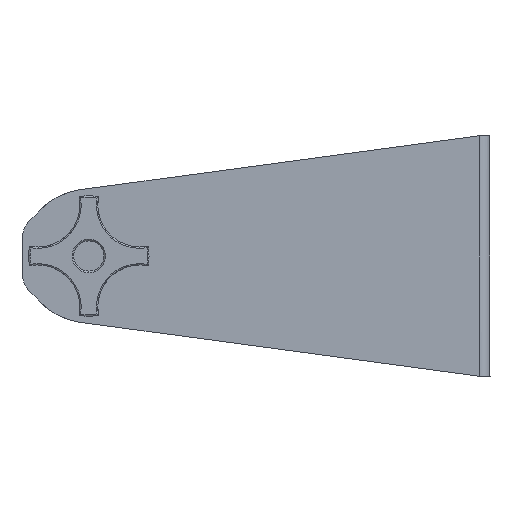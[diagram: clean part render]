
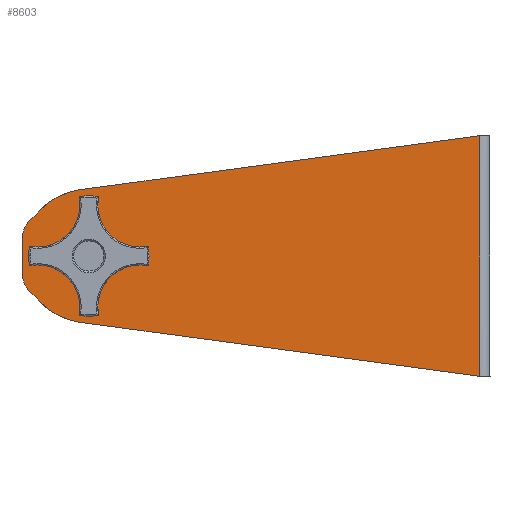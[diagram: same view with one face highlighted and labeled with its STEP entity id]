
A CAD part, left-side view. The second image highlights one B-rep face of the part: STEP entity #8603.
In plain terms, the highlighted planar face has unit normal (-1, 0, 0).
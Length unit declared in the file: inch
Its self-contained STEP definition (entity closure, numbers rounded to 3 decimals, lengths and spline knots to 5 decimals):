
#274 = LINE ( 'NONE', #3619, #4530 ) ;
#313 = EDGE_LOOP ( 'NONE', ( #4153, #3950, #7275, #7785, #909, #4486, #2589, #4508, #9084, #8207 ) ) ;
#324 = LINE ( 'NONE', #7533, #8843 ) ;
#330 = CARTESIAN_POINT ( 'NONE',  ( -11.063, 8.60408, 0.66302 ) ) ;
#390 = LINE ( 'NONE', #3887, #9181 ) ;
#411 = VECTOR ( 'NONE', #4027, 39.37008 ) ;
#676 = CARTESIAN_POINT ( 'NONE',  ( -11.063, 0.196, -2.24892 ) ) ;
#894 = DIRECTION ( 'NONE',  ( 1., 0., 0. ) ) ;
#909 = ORIENTED_EDGE ( 'NONE', *, *, #6058, .F. ) ;
#931 = PLANE ( 'NONE',  #4301 ) ;
#935 = CARTESIAN_POINT ( 'NONE',  ( -11.063, 7.6955, 0. ) ) ;
#977 = DIRECTION ( 'NONE',  ( 1., 0., 0. ) ) ;
#983 = VECTOR ( 'NONE', #9424, 39.37008 ) ;
#1042 = DIRECTION ( 'NONE',  ( 0., 1., 0. ) ) ;
#1184 = CIRCLE ( 'NONE', #2293, 1.25 ) ;
#1297 = VERTEX_POINT ( 'NONE', #676 ) ;
#1373 = EDGE_CURVE ( 'NONE', #3528, #8209, #5449, .T. ) ;
#1707 = CARTESIAN_POINT ( 'NONE',  ( -11.063, 7.5, 0. ) ) ;
#1822 = CARTESIAN_POINT ( 'NONE',  ( -11.063, 8.38521, 0.88255 ) ) ;
#2117 = CARTESIAN_POINT ( 'NONE',  ( -11.063, 8.60408, -0.66302 ) ) ;
#2189 = VERTEX_POINT ( 'NONE', #8534 ) ;
#2231 = VERTEX_POINT ( 'NONE', #935 ) ;
#2293 = AXIS2_PLACEMENT_3D ( 'NONE', #1707, #7665, #2555 ) ;
#2328 = CARTESIAN_POINT ( 'NONE',  ( -11.063, 8.25, 0.31 ) ) ;
#2430 = DIRECTION ( 'NONE',  ( 0., 0., 1. ) ) ;
#2555 = DIRECTION ( 'NONE',  ( 0., -1., 0. ) ) ;
#2589 = ORIENTED_EDGE ( 'NONE', *, *, #3502, .F. ) ;
#2800 = CIRCLE ( 'NONE', #8079, 0.1955 ) ;
#3170 = DIRECTION ( 'NONE',  ( 0., -1., 0. ) ) ;
#3243 = FACE_BOUND ( 'NONE', #8692, .T. ) ;
#3338 = DIRECTION ( 'NONE',  ( 1., 0., 0. ) ) ;
#3415 = VERTEX_POINT ( 'NONE', #7792 ) ;
#3500 = DIRECTION ( 'NONE',  ( 1., 0., 0. ) ) ;
#3502 = EDGE_CURVE ( 'NONE', #8209, #2189, #8109, .T. ) ;
#3528 = VERTEX_POINT ( 'NONE', #2117 ) ;
#3562 = CIRCLE ( 'NONE', #9714, 0.1955 ) ;
#3619 = CARTESIAN_POINT ( 'NONE',  ( -11.063, 0.188, 2.25 ) ) ;
#3678 = CARTESIAN_POINT ( 'NONE',  ( -11.063, 7.3045, 0. ) ) ;
#3788 = CARTESIAN_POINT ( 'NONE',  ( -11.063, 8.75, 0.31 ) ) ;
#3795 = CARTESIAN_POINT ( 'NONE',  ( -11.063, 8.38521, -0.88255 ) ) ;
#3838 = VECTOR ( 'NONE', #5500, 39.37008 ) ;
#3887 = CARTESIAN_POINT ( 'NONE',  ( -11.063, 0.188, -2.25 ) ) ;
#3950 = ORIENTED_EDGE ( 'NONE', *, *, #8383, .T. ) ;
#4027 = DIRECTION ( 'NONE',  ( 0., -0.706, 0.708 ) ) ;
#4153 = ORIENTED_EDGE ( 'NONE', *, *, #10127, .F. ) ;
#4161 = EDGE_CURVE ( 'NONE', #3415, #4620, #1184, .T. ) ;
#4301 = AXIS2_PLACEMENT_3D ( 'NONE', #5280, #6134, #1042 ) ;
#4469 = DIRECTION ( 'NONE',  ( 0., -0.991, 0.134 ) ) ;
#4486 = ORIENTED_EDGE ( 'NONE', *, *, #5639, .F. ) ;
#4508 = ORIENTED_EDGE ( 'NONE', *, *, #1373, .F. ) ;
#4530 = VECTOR ( 'NONE', #4469, 39.37008 ) ;
#4620 = VERTEX_POINT ( 'NONE', #3795 ) ;
#4742 = DIRECTION ( 'NONE',  ( 0., 0.991, 0.134 ) ) ;
#4892 = VERTEX_POINT ( 'NONE', #8524 ) ;
#4935 = LINE ( 'NONE', #9123, #411 ) ;
#4952 = VERTEX_POINT ( 'NONE', #1822 ) ;
#5028 = VERTEX_POINT ( 'NONE', #10489 ) ;
#5040 = VERTEX_POINT ( 'NONE', #3678 ) ;
#5279 = CIRCLE ( 'NONE', #9998, 0.5 ) ;
#5280 = CARTESIAN_POINT ( 'NONE',  ( -11.063, 7.5, 0. ) ) ;
#5350 = EDGE_CURVE ( 'NONE', #4952, #5028, #9423, .T. ) ;
#5449 = CIRCLE ( 'NONE', #5509, 0.5 ) ;
#5500 = DIRECTION ( 'NONE',  ( 0., 0., 1. ) ) ;
#5509 = AXIS2_PLACEMENT_3D ( 'NONE', #5976, #894, #6839 ) ;
#5639 = EDGE_CURVE ( 'NONE', #2189, #8742, #5279, .T. ) ;
#5842 = EDGE_CURVE ( 'NONE', #2231, #5040, #2800, .T. ) ;
#5891 = EDGE_CURVE ( 'NONE', #5028, #4892, #274, .T. ) ;
#5976 = CARTESIAN_POINT ( 'NONE',  ( -11.063, 8.25, -0.31 ) ) ;
#5983 = CARTESIAN_POINT ( 'NONE',  ( -11.063, 8.60408, -0.66302 ) ) ;
#6058 = EDGE_CURVE ( 'NONE', #8742, #4952, #4935, .T. ) ;
#6065 = CARTESIAN_POINT ( 'NONE',  ( -11.063, 7.5, 0. ) ) ;
#6134 = DIRECTION ( 'NONE',  ( -1., 0., 0. ) ) ;
#6839 = DIRECTION ( 'NONE',  ( 0., -1., 0. ) ) ;
#6934 = DIRECTION ( 'NONE',  ( 0., -1., 0. ) ) ;
#7275 = ORIENTED_EDGE ( 'NONE', *, *, #5891, .F. ) ;
#7326 = ORIENTED_EDGE ( 'NONE', *, *, #5842, .T. ) ;
#7414 = EDGE_CURVE ( 'NONE', #5040, #2231, #3562, .T. ) ;
#7533 = CARTESIAN_POINT ( 'NONE',  ( -11.063, 0.196, 0. ) ) ;
#7665 = DIRECTION ( 'NONE',  ( 1., 0., 0. ) ) ;
#7782 = FACE_OUTER_BOUND ( 'NONE', #313, .T. ) ;
#7785 = ORIENTED_EDGE ( 'NONE', *, *, #5350, .F. ) ;
#7792 = CARTESIAN_POINT ( 'NONE',  ( -11.063, 7.66748, -1.23873 ) ) ;
#8079 = AXIS2_PLACEMENT_3D ( 'NONE', #8608, #3500, #9471 ) ;
#8109 = LINE ( 'NONE', #3788, #3838 ) ;
#8207 = ORIENTED_EDGE ( 'NONE', *, *, #4161, .F. ) ;
#8209 = VERTEX_POINT ( 'NONE', #9019 ) ;
#8285 = DIRECTION ( 'NONE',  ( 1., 0., 0. ) ) ;
#8317 = LINE ( 'NONE', #5983, #983 ) ;
#8383 = EDGE_CURVE ( 'NONE', #1297, #4892, #324, .T. ) ;
#8441 = CARTESIAN_POINT ( 'NONE',  ( -11.063, 7.5, 0. ) ) ;
#8508 = AXIS2_PLACEMENT_3D ( 'NONE', #8441, #3338, #9299 ) ;
#8524 = CARTESIAN_POINT ( 'NONE',  ( -11.063, 0.196, 2.24892 ) ) ;
#8534 = CARTESIAN_POINT ( 'NONE',  ( -11.063, 8.75, 0.31 ) ) ;
#8569 = EDGE_CURVE ( 'NONE', #4620, #3528, #8317, .T. ) ;
#8603 = ADVANCED_FACE ( 'NONE', ( #3243, #7782 ), #931, .T. ) ;
#8608 = CARTESIAN_POINT ( 'NONE',  ( -11.063, 7.5, 0. ) ) ;
#8692 = EDGE_LOOP ( 'NONE', ( #7326, #10488 ) ) ;
#8742 = VERTEX_POINT ( 'NONE', #330 ) ;
#8843 = VECTOR ( 'NONE', #2430, 39.37008 ) ;
#9019 = CARTESIAN_POINT ( 'NONE',  ( -11.063, 8.75, -0.31 ) ) ;
#9084 = ORIENTED_EDGE ( 'NONE', *, *, #8569, .F. ) ;
#9123 = CARTESIAN_POINT ( 'NONE',  ( -11.063, 8.60408, 0.66302 ) ) ;
#9181 = VECTOR ( 'NONE', #4742, 39.37008 ) ;
#9299 = DIRECTION ( 'NONE',  ( 0., -1., 0. ) ) ;
#9423 = CIRCLE ( 'NONE', #8508, 1.25 ) ;
#9424 = DIRECTION ( 'NONE',  ( 0., 0.706, 0.708 ) ) ;
#9471 = DIRECTION ( 'NONE',  ( 0., -1., 0. ) ) ;
#9714 = AXIS2_PLACEMENT_3D ( 'NONE', #6065, #977, #6934 ) ;
#9998 = AXIS2_PLACEMENT_3D ( 'NONE', #2328, #8285, #3170 ) ;
#10127 = EDGE_CURVE ( 'NONE', #1297, #3415, #390, .T. ) ;
#10488 = ORIENTED_EDGE ( 'NONE', *, *, #7414, .T. ) ;
#10489 = CARTESIAN_POINT ( 'NONE',  ( -11.063, 7.66748, 1.23873 ) ) ;
